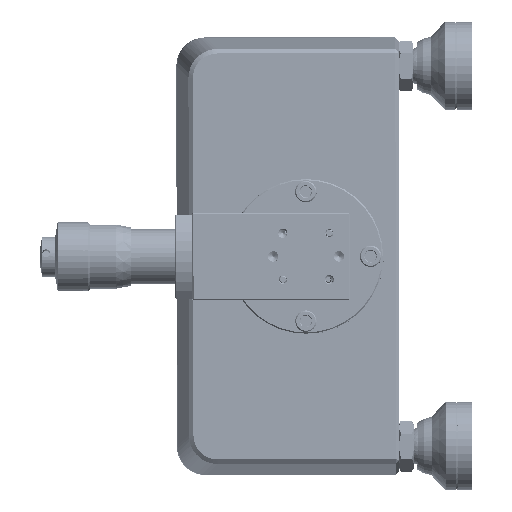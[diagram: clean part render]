
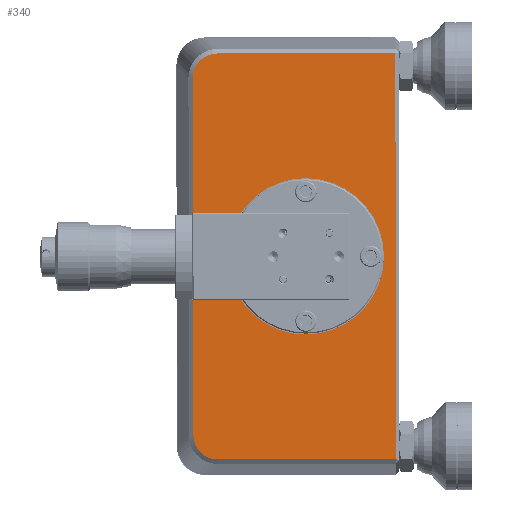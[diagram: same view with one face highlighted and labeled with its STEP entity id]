
A CAD part, left-side view. The second image highlights one B-rep face of the part: STEP entity #340.
In plain terms, the highlighted planar face has unit normal (-1, -0.002, -0.001).
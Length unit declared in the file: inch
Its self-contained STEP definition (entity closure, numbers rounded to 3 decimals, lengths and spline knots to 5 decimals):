
#340 = ADVANCED_FACE ( 'NONE', ( #17594, #248067 ), #282116, .F. ) ;
#8121 = VECTOR ( 'NONE', #130868, 39.37008 ) ;
#9132 = VERTEX_POINT ( 'NONE', #112653 ) ;
#12372 = CARTESIAN_POINT ( 'NONE',  ( -0.0937, -6.66383, -2.87638 ) ) ;
#12920 = DIRECTION ( 'NONE',  ( -0.001, 0.001, 1. ) ) ;
#14729 = DIRECTION ( 'NONE',  ( -0.002, 1., -0.001 ) ) ;
#14847 = CARTESIAN_POINT ( 'NONE',  ( -0.09328, -6.87299, -3.05755 ) ) ;
#17594 = FACE_OUTER_BOUND ( 'NONE', #231895, .T. ) ;
#17603 = VERTEX_POINT ( 'NONE', #88144 ) ;
#35720 = CARTESIAN_POINT ( 'NONE',  ( -0.09524, -6.76305, 0.39624 ) ) ;
#35895 = VERTEX_POINT ( 'NONE', #211582 ) ;
#37393 = CARTESIAN_POINT ( 'NONE',  ( -0.09532, -6.65979, 0.24096 ) ) ;
#38050 = CARTESIAN_POINT ( 'NONE',  ( -0.0918, -8.39689, -1.31549 ) ) ;
#39533 = B_SPLINE_CURVE_WITH_KNOTS ( 'NONE', 3,
 ( #270173, #12372, #268496, #138624, #242972, #217358, #61884, #319749, #114740, #241311 ),
 .UNSPECIFIED., .F., .F.,
 ( 4, 2, 2, 2, 4 ),
 ( 0., 0.25, 0.5, 0.75, 1. ),
 .UNSPECIFIED. ) ;
#41971 = CARTESIAN_POINT ( 'NONE',  ( -0.09414, -7.47463, 0.42339 ) ) ;
#54139 = LINE ( 'NONE', #81395, #8121 ) ;
#56886 = ORIENTED_EDGE ( 'NONE', *, *, #119917, .T. ) ;
#57575 = EDGE_CURVE ( 'NONE', #317466, #9132, #54139, .T. ) ;
#59416 = VERTEX_POINT ( 'NONE', #238500 ) ;
#61884 = CARTESIAN_POINT ( 'NONE',  ( -0.09346, -6.7675, -3.03145 ) ) ;
#62540 = DIRECTION ( 'NONE',  ( -0.001, 0.001, 1. ) ) ;
#63600 = LINE ( 'NONE', #38050, #147784 ) ;
#78844 = DIRECTION ( 'NONE',  ( 1., 0.002, 0.001 ) ) ;
#81395 = CARTESIAN_POINT ( 'NONE',  ( -0.09233, -7.47915, -3.05676 ) ) ;
#83836 = VECTOR ( 'NONE', #98515, 39.37008 ) ;
#85265 = CARTESIAN_POINT ( 'NONE',  ( -0.09533, -6.66519, 0.26841 ) ) ;
#86969 = CARTESIAN_POINT ( 'NONE',  ( -0.09518, -6.8135, 0.4171 ) ) ;
#88144 = CARTESIAN_POINT ( 'NONE',  ( -0.09531, -6.65983, 0.21342 ) ) ;
#88733 = ORIENTED_EDGE ( 'NONE', *, *, #57575, .T. ) ;
#91385 = ORIENTED_EDGE ( 'NONE', *, *, #181666, .F. ) ;
#98515 = DIRECTION ( 'NONE',  ( 0.001, -0.001, -1. ) ) ;
#99283 = CARTESIAN_POINT ( 'NONE',  ( -0.09266, -7.62776, -1.98649 ) ) ;
#103939 = VERTEX_POINT ( 'NONE', #192025 ) ;
#109307 = ORIENTED_EDGE ( 'NONE', *, *, #113525, .T. ) ;
#112653 = CARTESIAN_POINT ( 'NONE',  ( -0.09089, -8.39914, -3.05557 ) ) ;
#113525 = EDGE_CURVE ( 'NONE', #59416, #317466, #39533, .T. ) ;
#114740 = CARTESIAN_POINT ( 'NONE',  ( -0.09332, -6.84545, -3.05758 ) ) ;
#115268 = DIRECTION ( 'NONE',  ( -1., -0.002, -0.001 ) ) ;
#117302 = EDGE_CURVE ( 'NONE', #9132, #35895, #63600, .T. ) ;
#119917 = EDGE_CURVE ( 'NONE', #35895, #103939, #301518, .T. ) ;
#126330 = EDGE_CURVE ( 'NONE', #17603, #59416, #231801, .T. ) ;
#130868 = DIRECTION ( 'NONE',  ( 0.002, -1., 0.001 ) ) ;
#138624 = CARTESIAN_POINT ( 'NONE',  ( -0.09362, -6.69017, -2.95432 ) ) ;
#142521 = EDGE_LOOP ( 'NONE', ( #91385, #158476 ) ) ;
#143113 = CARTESIAN_POINT ( 'NONE',  ( -0.09531, -6.65983, 0.21342 ) ) ;
#147784 = VECTOR ( 'NONE', #193426, 39.37008 ) ;
#149307 = CARTESIAN_POINT ( 'NONE',  ( -0.093, -7.62689, -1.31649 ) ) ;
#150902 = B_SPLINE_CURVE_WITH_KNOTS ( 'NONE', 3,
 ( #271286, #269583, #86969, #35720, #298607, #267956, #272984, #85265, #37393, #143113 ),
 .UNSPECIFIED., .F., .F.,
 ( 4, 2, 2, 2, 4 ),
 ( 0., 0.25, 0.5, 0.75, 1. ),
 .UNSPECIFIED. ) ;
#157165 = ORIENTED_EDGE ( 'NONE', *, *, #117302, .T. ) ;
#158476 = ORIENTED_EDGE ( 'NONE', *, *, #234819, .F. ) ;
#176391 = VECTOR ( 'NONE', #14729, 39.37008 ) ;
#181666 = EDGE_CURVE ( 'NONE', #188964, #205866, #238676, .T. ) ;
#184725 = DIRECTION ( 'NONE',  ( 0.001, -0.001, -1. ) ) ;
#188964 = VERTEX_POINT ( 'NONE', #246615 ) ;
#192025 = CARTESIAN_POINT ( 'NONE',  ( -0.09509, -6.86848, 0.42261 ) ) ;
#193426 = DIRECTION ( 'NONE',  ( -0.001, 0.001, 1. ) ) ;
#205866 = VERTEX_POINT ( 'NONE', #99283 ) ;
#211582 = CARTESIAN_POINT ( 'NONE',  ( -0.09271, -8.39463, 0.42459 ) ) ;
#217358 = CARTESIAN_POINT ( 'NONE',  ( -0.0935, -6.74424, -3.01599 ) ) ;
#231801 = LINE ( 'NONE', #335883, #83836 ) ;
#231895 = EDGE_LOOP ( 'NONE', ( #109307, #88733, #157165, #56886, #234275, #282828 ) ) ;
#234275 = ORIENTED_EDGE ( 'NONE', *, *, #248120, .T. ) ;
#234819 = EDGE_CURVE ( 'NONE', #205866, #188964, #276308, .T. ) ;
#238500 = CARTESIAN_POINT ( 'NONE',  ( -0.09372, -6.6638, -2.8489 ) ) ;
#238676 = CIRCLE ( 'NONE', #265614, 0.67 ) ;
#241311 = CARTESIAN_POINT ( 'NONE',  ( -0.09328, -6.87299, -3.05755 ) ) ;
#242972 = CARTESIAN_POINT ( 'NONE',  ( -0.09358, -6.70569, -2.97754 ) ) ;
#246615 = CARTESIAN_POINT ( 'NONE',  ( -0.09335, -7.62602, -0.64649 ) ) ;
#248067 = FACE_BOUND ( 'NONE', #142521, .T. ) ;
#248120 = EDGE_CURVE ( 'NONE', #103939, #17603, #150902, .T. ) ;
#263194 = CARTESIAN_POINT ( 'NONE',  ( -0.09324, -7.47689, -1.31668 ) ) ;
#265614 = AXIS2_PLACEMENT_3D ( 'NONE', #296477, #320393, #62540 ) ;
#267956 = CARTESIAN_POINT ( 'NONE',  ( -0.09531, -6.70138, 0.34217 ) ) ;
#268496 = CARTESIAN_POINT ( 'NONE',  ( -0.09368, -6.6693, -2.90388 ) ) ;
#269583 = CARTESIAN_POINT ( 'NONE',  ( -0.09514, -6.84099, 0.42257 ) ) ;
#270173 = CARTESIAN_POINT ( 'NONE',  ( -0.09372, -6.6638, -2.8489 ) ) ;
#271286 = CARTESIAN_POINT ( 'NONE',  ( -0.09509, -6.86848, 0.42261 ) ) ;
#272984 = CARTESIAN_POINT ( 'NONE',  ( -0.09532, -6.68593, 0.31891 ) ) ;
#276308 = CIRCLE ( 'NONE', #336302, 0.67 ) ;
#278282 = AXIS2_PLACEMENT_3D ( 'NONE', #263194, #78844, #184725 ) ;
#282116 = PLANE ( 'NONE',  #278282 ) ;
#282828 = ORIENTED_EDGE ( 'NONE', *, *, #126330, .T. ) ;
#296477 = CARTESIAN_POINT ( 'NONE',  ( -0.093, -7.62689, -1.31649 ) ) ;
#298607 = CARTESIAN_POINT ( 'NONE',  ( -0.09527, -6.73984, 0.38072 ) ) ;
#301518 = LINE ( 'NONE', #41971, #176391 ) ;
#317466 = VERTEX_POINT ( 'NONE', #14847 ) ;
#319749 = CARTESIAN_POINT ( 'NONE',  ( -0.09337, -6.81799, -3.05219 ) ) ;
#320393 = DIRECTION ( 'NONE',  ( -1., -0.002, -0.001 ) ) ;
#335883 = CARTESIAN_POINT ( 'NONE',  ( -0.09451, -6.66181, -1.31774 ) ) ;
#336302 = AXIS2_PLACEMENT_3D ( 'NONE', #149307, #115268, #12920 ) ;
